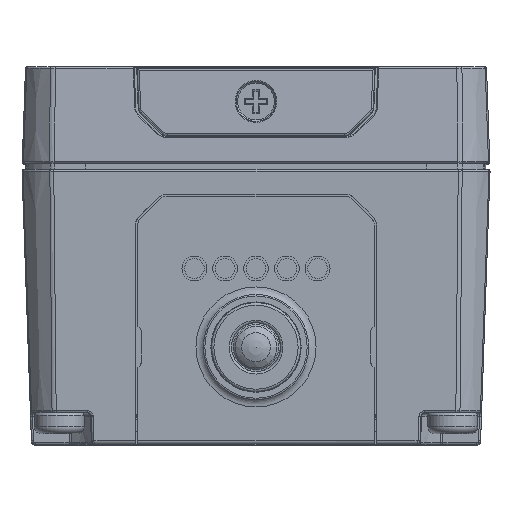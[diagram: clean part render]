
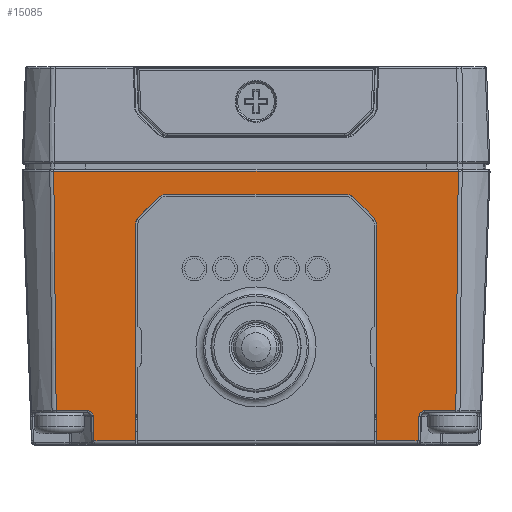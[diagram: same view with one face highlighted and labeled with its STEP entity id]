
A CAD part, top view. The second image highlights one B-rep face of the part: STEP entity #15085.
In plain terms, the highlighted planar face has unit normal (0, -0.035, 0.999).
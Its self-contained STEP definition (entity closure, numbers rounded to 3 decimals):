
#599=ELLIPSE('',#53697,0.6,0.6);
#600=ELLIPSE('',#53698,1.201,1.2);
#601=ELLIPSE('',#53699,1.201,1.2);
#602=ELLIPSE('',#53700,1.201,1.2);
#603=ELLIPSE('',#53701,1.201,1.2);
#604=ELLIPSE('',#53702,0.6,0.6);
#2659=B_SPLINE_CURVE_WITH_KNOTS('',3,(#92920,#92921,#92922,#92923,#92924,
#92925,#92926,#92927,#92928,#92929),.UNSPECIFIED.,.F.,.F.,(4,3,3,4),(0.,
0.444,0.928,1.),.UNSPECIFIED.);
#2660=B_SPLINE_CURVE_WITH_KNOTS('',3,(#92934,#92935,#92936,#92937),
 .UNSPECIFIED.,.F.,.F.,(4,4),(0.,1.),.UNSPECIFIED.);
#5470=LINE('',#92932,#8485);
#5471=LINE('',#92939,#8486);
#5472=LINE('',#92943,#8487);
#5473=LINE('',#92945,#8488);
#5474=LINE('',#92947,#8489);
#5475=LINE('',#92951,#8490);
#5476=LINE('',#92955,#8491);
#5477=LINE('',#92959,#8492);
#5478=LINE('',#92963,#8493);
#5479=LINE('',#92965,#8494);
#5480=LINE('',#92967,#8495);
#5481=LINE('',#92971,#8496);
#8485=VECTOR('',#66094,1.);
#8486=VECTOR('',#66095,1.);
#8487=VECTOR('',#66098,1.);
#8488=VECTOR('',#66099,1.);
#8489=VECTOR('',#66100,1.);
#8490=VECTOR('',#66103,1.);
#8491=VECTOR('',#66106,1.);
#8492=VECTOR('',#66109,1.);
#8493=VECTOR('',#66112,1.);
#8494=VECTOR('',#66113,1.);
#8495=VECTOR('',#66114,1.);
#8496=VECTOR('',#66117,1.);
#9882=PLANE('',#53703);
#12090=FACE_OUTER_BOUND('',#20251,.T.);
#15085=ADVANCED_FACE('',(#12090),#9882,.F.);
#20251=EDGE_LOOP('',(#32095,#32096,#32097,#32098,#32099,#32100,#32101,#32102,
#32103,#32104,#32105,#32106,#32107,#32108,#32109,#32110,#32111,#32112,#32113,
#32114));
#32095=ORIENTED_EDGE('',*,*,#45371,.T.);
#32096=ORIENTED_EDGE('',*,*,#45372,.T.);
#32097=ORIENTED_EDGE('',*,*,#45373,.T.);
#32098=ORIENTED_EDGE('',*,*,#45374,.T.);
#32099=ORIENTED_EDGE('',*,*,#45375,.T.);
#32100=ORIENTED_EDGE('',*,*,#45376,.T.);
#32101=ORIENTED_EDGE('',*,*,#45377,.T.);
#32102=ORIENTED_EDGE('',*,*,#45378,.T.);
#32103=ORIENTED_EDGE('',*,*,#45379,.T.);
#32104=ORIENTED_EDGE('',*,*,#45380,.T.);
#32105=ORIENTED_EDGE('',*,*,#45381,.T.);
#32106=ORIENTED_EDGE('',*,*,#45382,.T.);
#32107=ORIENTED_EDGE('',*,*,#45383,.T.);
#32108=ORIENTED_EDGE('',*,*,#45384,.T.);
#32109=ORIENTED_EDGE('',*,*,#45385,.T.);
#32110=ORIENTED_EDGE('',*,*,#45386,.T.);
#32111=ORIENTED_EDGE('',*,*,#45387,.T.);
#32112=ORIENTED_EDGE('',*,*,#45388,.T.);
#32113=ORIENTED_EDGE('',*,*,#45389,.T.);
#32114=ORIENTED_EDGE('',*,*,#45390,.T.);
#38900=VERTEX_POINT('',#92930);
#38901=VERTEX_POINT('',#92931);
#38902=VERTEX_POINT('',#92933);
#38903=VERTEX_POINT('',#92938);
#38904=VERTEX_POINT('',#92940);
#38905=VERTEX_POINT('',#92942);
#38906=VERTEX_POINT('',#92944);
#38907=VERTEX_POINT('',#92946);
#38908=VERTEX_POINT('',#92948);
#38909=VERTEX_POINT('',#92950);
#38910=VERTEX_POINT('',#92952);
#38911=VERTEX_POINT('',#92954);
#38912=VERTEX_POINT('',#92956);
#38913=VERTEX_POINT('',#92958);
#38914=VERTEX_POINT('',#92960);
#38915=VERTEX_POINT('',#92962);
#38916=VERTEX_POINT('',#92964);
#38917=VERTEX_POINT('',#92966);
#38918=VERTEX_POINT('',#92968);
#38919=VERTEX_POINT('',#92970);
#45371=EDGE_CURVE('',#38900,#38901,#2659,.T.);
#45372=EDGE_CURVE('',#38901,#38902,#5470,.T.);
#45373=EDGE_CURVE('',#38902,#38903,#2660,.T.);
#45374=EDGE_CURVE('',#38903,#38904,#5471,.T.);
#45375=EDGE_CURVE('',#38904,#38905,#599,.T.);
#45376=EDGE_CURVE('',#38905,#38906,#5472,.T.);
#45377=EDGE_CURVE('',#38906,#38907,#5473,.T.);
#45378=EDGE_CURVE('',#38907,#38908,#5474,.T.);
#45379=EDGE_CURVE('',#38908,#38909,#600,.T.);
#45380=EDGE_CURVE('',#38909,#38910,#5475,.T.);
#45381=EDGE_CURVE('',#38910,#38911,#601,.T.);
#45382=EDGE_CURVE('',#38911,#38912,#5476,.T.);
#45383=EDGE_CURVE('',#38912,#38913,#602,.T.);
#45384=EDGE_CURVE('',#38913,#38914,#5477,.T.);
#45385=EDGE_CURVE('',#38914,#38915,#603,.T.);
#45386=EDGE_CURVE('',#38915,#38916,#5478,.T.);
#45387=EDGE_CURVE('',#38916,#38917,#5479,.T.);
#45388=EDGE_CURVE('',#38917,#38918,#5480,.T.);
#45389=EDGE_CURVE('',#38918,#38919,#604,.T.);
#45390=EDGE_CURVE('',#38919,#38900,#5481,.T.);
#53697=AXIS2_PLACEMENT_3D('',#92941,#66096,#66097);
#53698=AXIS2_PLACEMENT_3D('',#92949,#66101,#66102);
#53699=AXIS2_PLACEMENT_3D('',#92953,#66104,#66105);
#53700=AXIS2_PLACEMENT_3D('',#92957,#66107,#66108);
#53701=AXIS2_PLACEMENT_3D('',#92961,#66110,#66111);
#53702=AXIS2_PLACEMENT_3D('',#92969,#66115,#66116);
#53703=AXIS2_PLACEMENT_3D('',#92972,#66118,#66119);
#66094=DIRECTION('',(-1.,0.,0.));
#66095=DIRECTION('',(1.,0.,0.));
#66096=DIRECTION('',(0.,0.035,-0.999));
#66097=DIRECTION('',(0.,0.999,0.035));
#66098=DIRECTION('',(0.035,-0.999,-0.035));
#66099=DIRECTION('',(1.,0.,0.));
#66100=DIRECTION('',(0.,0.999,0.035));
#66101=DIRECTION('',(0.,0.035,-0.999));
#66102=DIRECTION('',(0.924,-0.382,-0.013));
#66103=DIRECTION('',(0.707,0.707,0.024));
#66104=DIRECTION('',(0.,0.035,-0.999));
#66105=DIRECTION('',(-0.383,0.923,0.032));
#66106=DIRECTION('',(1.,0.,0.));
#66107=DIRECTION('',(0.,0.035,-0.999));
#66108=DIRECTION('',(0.383,0.923,0.032));
#66109=DIRECTION('',(0.707,-0.707,-0.024));
#66110=DIRECTION('',(0.,0.035,-0.999));
#66111=DIRECTION('',(-0.924,-0.382,-0.013));
#66112=DIRECTION('',(0.,-0.999,-0.035));
#66113=DIRECTION('',(1.,0.,0.));
#66114=DIRECTION('',(0.035,0.999,0.035));
#66115=DIRECTION('',(0.,0.035,-0.999));
#66116=DIRECTION('',(0.,-0.999,-0.035));
#66117=DIRECTION('',(1.,0.,0.));
#66118=DIRECTION('',(0.,0.035,-0.999));
#66119=DIRECTION('',(0.,-0.999,-0.035));
#92920=CARTESIAN_POINT('',(39.569,2.399,62.507));
#92921=CARTESIAN_POINT('',(39.606,5.966,62.63));
#92922=CARTESIAN_POINT('',(39.643,9.534,62.754));
#92923=CARTESIAN_POINT('',(39.679,13.101,62.877));
#92924=CARTESIAN_POINT('',(39.718,16.987,63.011));
#92925=CARTESIAN_POINT('',(39.757,20.872,63.146));
#92926=CARTESIAN_POINT('',(39.795,24.758,63.28));
#92927=CARTESIAN_POINT('',(39.8,25.338,63.3));
#92928=CARTESIAN_POINT('',(39.806,25.918,63.32));
#92929=CARTESIAN_POINT('',(39.812,26.499,63.34));
#92930=CARTESIAN_POINT('',(39.569,2.399,62.507));
#92931=CARTESIAN_POINT('',(39.812,26.499,63.34));
#92932=CARTESIAN_POINT('',(-0.889,26.499,63.34));
#92933=CARTESIAN_POINT('',(-0.887,26.499,63.34));
#92934=CARTESIAN_POINT('',(-0.887,26.499,63.34));
#92935=CARTESIAN_POINT('',(-0.809,18.466,63.062));
#92936=CARTESIAN_POINT('',(-0.728,10.432,62.785));
#92937=CARTESIAN_POINT('',(-0.645,2.399,62.507));
#92938=CARTESIAN_POINT('',(-0.645,2.399,62.507));
#92939=CARTESIAN_POINT('',(2.476,2.399,62.507));
#92940=CARTESIAN_POINT('',(2.476,2.399,62.507));
#92941=CARTESIAN_POINT('',(2.476,1.799,62.486));
#92942=CARTESIAN_POINT('',(3.076,1.82,62.487));
#92943=CARTESIAN_POINT('',(3.156,-0.47,62.408));
#92944=CARTESIAN_POINT('',(3.161,-0.608,62.403));
#92945=CARTESIAN_POINT('',(45.46,-0.608,62.403));
#92946=CARTESIAN_POINT('',(7.312,-0.608,62.403));
#92947=CARTESIAN_POINT('',(7.312,-0.994,62.389));
#92948=CARTESIAN_POINT('',(7.312,21.036,63.151));
#92949=CARTESIAN_POINT('',(8.513,21.035,63.151));
#92950=CARTESIAN_POINT('',(7.663,21.883,63.181));
#92951=CARTESIAN_POINT('',(8.21,22.43,63.2));
#92952=CARTESIAN_POINT('',(9.634,23.854,63.249));
#92953=CARTESIAN_POINT('',(10.483,23.006,63.22));
#92954=CARTESIAN_POINT('',(10.483,24.206,63.261));
#92955=CARTESIAN_POINT('',(31.612,24.206,63.261));
#92956=CARTESIAN_POINT('',(28.442,24.206,63.261));
#92957=CARTESIAN_POINT('',(28.442,23.006,63.22));
#92958=CARTESIAN_POINT('',(29.291,23.854,63.249));
#92959=CARTESIAN_POINT('',(42.858,10.287,62.78));
#92960=CARTESIAN_POINT('',(31.262,21.883,63.181));
#92961=CARTESIAN_POINT('',(30.412,21.035,63.151));
#92962=CARTESIAN_POINT('',(31.613,21.036,63.151));
#92963=CARTESIAN_POINT('',(31.613,-0.994,62.389));
#92964=CARTESIAN_POINT('',(31.613,-0.608,62.403));
#92965=CARTESIAN_POINT('',(45.46,-0.608,62.403));
#92966=CARTESIAN_POINT('',(35.764,-0.608,62.403));
#92967=CARTESIAN_POINT('',(35.832,1.341,62.47));
#92968=CARTESIAN_POINT('',(35.849,1.82,62.487));
#92969=CARTESIAN_POINT('',(36.449,1.799,62.486));
#92970=CARTESIAN_POINT('',(36.449,2.399,62.507));
#92971=CARTESIAN_POINT('',(39.567,2.399,62.507));
#92972=CARTESIAN_POINT('',(45.46,1.006,62.459));
